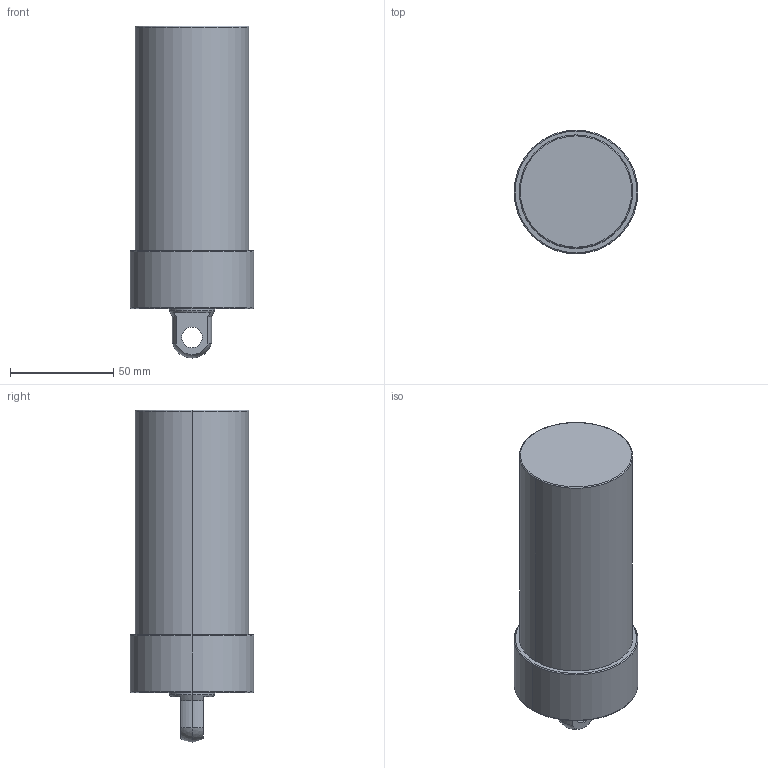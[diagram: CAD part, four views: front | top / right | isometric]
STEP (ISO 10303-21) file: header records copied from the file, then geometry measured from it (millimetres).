
FILE_DESCRIPTION (( 'STEP AP203' ), '1' );
FILE_NAME ('CLLU055-CP-080.STEP', '2017-05-15T07:54:34', ( '' ), ( '' ), 'SwSTEP 2.0', 'SolidWorks 2015', '' );
FILE_SCHEMA (( 'CONFIG_CONTROL_DESIGN' ));
Length unit declared in the file: millimetre
Products named in the file (1): CLLU055-CP-080
Bounding box: 60 x 60 x 161 mm (x, y, z)
Volume: 340362.8 mm3; surface area: 32087.6 mm2
Topology: 1 solids, 1 shells, 58 faces, 131 edges, 75 vertices
Faces by surface type: cylinder 23, cone 18, plane 9, torus 6, sphere 2
Entity records: 1658 total; most frequent: DIRECTION 311, CARTESIAN_POINT 269, ORIENTED_EDGE 246, AXIS2_PLACEMENT_3D 133, EDGE_CURVE 123, VERTEX_POINT 75, CIRCLE 74, EDGE_LOOP 68
